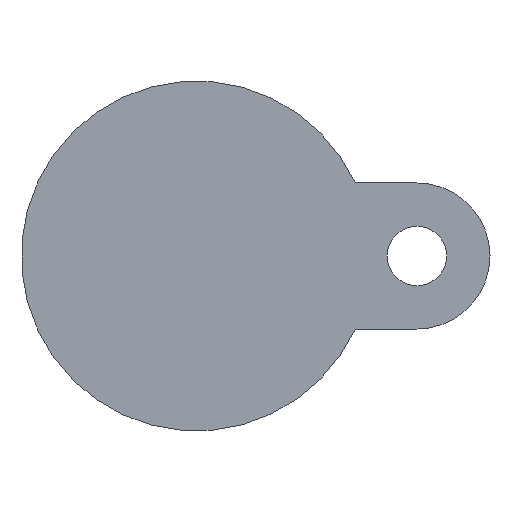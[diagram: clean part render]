
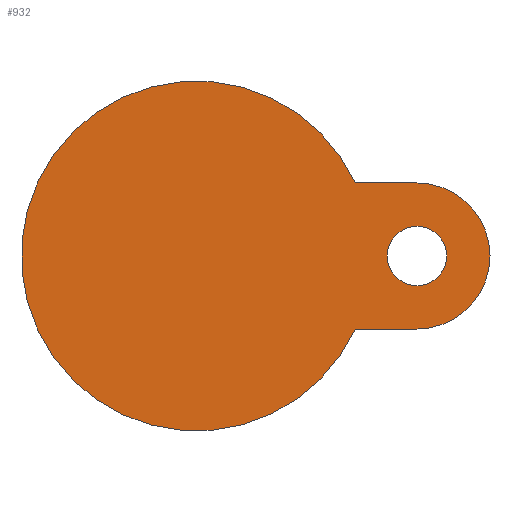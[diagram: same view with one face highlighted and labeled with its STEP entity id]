
A CAD part, front view. The second image highlights one B-rep face of the part: STEP entity #932.
In plain terms, the highlighted planar face has unit normal (0, -1, 0).
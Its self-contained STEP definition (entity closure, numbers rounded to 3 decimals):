
#3 = DIRECTION ( 'NONE',  ( 1., 0., 0. ) ) ;
#55 = DIRECTION ( 'NONE',  ( 1., 0., 0. ) ) ;
#269 = EDGE_CURVE ( 'NONE', #471, #1913, #1887, .T. ) ;
#400 = CARTESIAN_POINT ( 'NONE',  ( 65., -28., -21.5 ) ) ;
#420 = LINE ( 'NONE', #1019, #1313 ) ;
#425 = CARTESIAN_POINT ( 'NONE',  ( 51.5, -28., 0. ) ) ;
#459 = ORIENTED_EDGE ( 'NONE', *, *, #269, .T. ) ;
#471 = VERTEX_POINT ( 'NONE', #4278 ) ;
#659 = EDGE_CURVE ( 'NONE', #1913, #471, #1576, .T. ) ;
#696 = EDGE_CURVE ( 'NONE', #3354, #4443, #2294, .T. ) ;
#780 = CARTESIAN_POINT ( 'NONE',  ( 56.25, -28., 0. ) ) ;
#791 = DIRECTION ( 'NONE',  ( -1., 0., 0. ) ) ;
#932 = ADVANCED_FACE ( 'NONE', ( #3611, #1863 ), #3214, .T. ) ;
#1019 = CARTESIAN_POINT ( 'NONE',  ( 41.5, -28., 21.5 ) ) ;
#1081 = CARTESIAN_POINT ( 'NONE',  ( 46.797, -28., 21.5 ) ) ;
#1208 = VERTEX_POINT ( 'NONE', #3907 ) ;
#1313 = VECTOR ( 'NONE', #3, 1000. ) ;
#1319 = EDGE_CURVE ( 'NONE', #2745, #1208, #3902, .T. ) ;
#1364 = AXIS2_PLACEMENT_3D ( 'NONE', #3525, #1529, #791 ) ;
#1365 = CARTESIAN_POINT ( 'NONE',  ( 65., -28., 21.5 ) ) ;
#1455 = ORIENTED_EDGE ( 'NONE', *, *, #1882, .F. ) ;
#1470 = DIRECTION ( 'NONE',  ( -1., 0., 0. ) ) ;
#1484 = ORIENTED_EDGE ( 'NONE', *, *, #1319, .T. ) ;
#1529 = DIRECTION ( 'NONE',  ( 0., 1., 0. ) ) ;
#1576 = CIRCLE ( 'NONE', #1364, 8.75 ) ;
#1610 = VECTOR ( 'NONE', #1800, 1000. ) ;
#1800 = DIRECTION ( 'NONE',  ( -1., 0., 0. ) ) ;
#1832 = CARTESIAN_POINT ( 'NONE',  ( 65., -28., 0. ) ) ;
#1863 = FACE_OUTER_BOUND ( 'NONE', #2999, .T. ) ;
#1882 = EDGE_CURVE ( 'NONE', #2745, #3354, #420, .T. ) ;
#1887 = CIRCLE ( 'NONE', #2822, 8.75 ) ;
#1913 = VERTEX_POINT ( 'NONE', #780 ) ;
#1942 = AXIS2_PLACEMENT_3D ( 'NONE', #4244, #3497, #3216 ) ;
#2155 = AXIS2_PLACEMENT_3D ( 'NONE', #425, #4286, #55 ) ;
#2260 = EDGE_LOOP ( 'NONE', ( #3198, #459 ) ) ;
#2294 = CIRCLE ( 'NONE', #3899, 21.5 ) ;
#2501 = ORIENTED_EDGE ( 'NONE', *, *, #3193, .F. ) ;
#2745 = VERTEX_POINT ( 'NONE', #1081 ) ;
#2822 = AXIS2_PLACEMENT_3D ( 'NONE', #1832, #3893, #1470 ) ;
#2925 = DIRECTION ( 'NONE',  ( 0., 1., 0. ) ) ;
#2999 = EDGE_LOOP ( 'NONE', ( #1484, #2501, #4052, #1455 ) ) ;
#3193 = EDGE_CURVE ( 'NONE', #4443, #1208, #3910, .T. ) ;
#3198 = ORIENTED_EDGE ( 'NONE', *, *, #659, .T. ) ;
#3214 = PLANE ( 'NONE',  #2155 ) ;
#3216 = DIRECTION ( 'NONE',  ( 1., 0., 0. ) ) ;
#3354 = VERTEX_POINT ( 'NONE', #1365 ) ;
#3497 = DIRECTION ( 'NONE',  ( 0., -1., 0. ) ) ;
#3525 = CARTESIAN_POINT ( 'NONE',  ( 65., -28., 0. ) ) ;
#3611 = FACE_BOUND ( 'NONE', #2260, .T. ) ;
#3617 = DIRECTION ( 'NONE',  ( 1., 0., 0. ) ) ;
#3893 = DIRECTION ( 'NONE',  ( 0., 1., 0. ) ) ;
#3899 = AXIS2_PLACEMENT_3D ( 'NONE', #4223, #2925, #3617 ) ;
#3902 = CIRCLE ( 'NONE', #1942, 51.5 ) ;
#3907 = CARTESIAN_POINT ( 'NONE',  ( 46.797, -28., -21.5 ) ) ;
#3910 = LINE ( 'NONE', #4220, #1610 ) ;
#4052 = ORIENTED_EDGE ( 'NONE', *, *, #696, .F. ) ;
#4220 = CARTESIAN_POINT ( 'NONE',  ( 41.5, -28., -21.5 ) ) ;
#4223 = CARTESIAN_POINT ( 'NONE',  ( 65., -28., 0. ) ) ;
#4244 = CARTESIAN_POINT ( 'NONE',  ( 0., -28., 0. ) ) ;
#4278 = CARTESIAN_POINT ( 'NONE',  ( 73.75, -28., 0. ) ) ;
#4286 = DIRECTION ( 'NONE',  ( 0., -1., 0. ) ) ;
#4443 = VERTEX_POINT ( 'NONE', #400 ) ;
